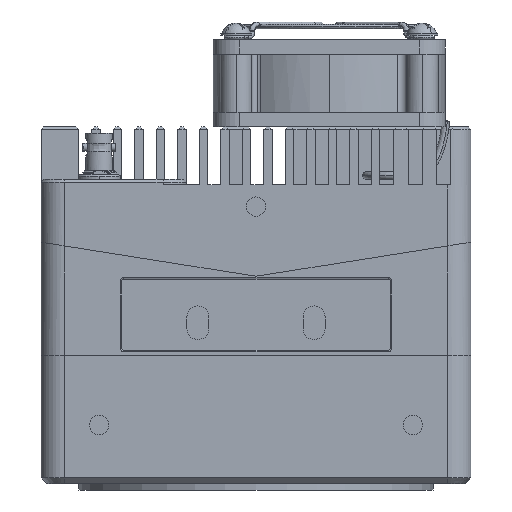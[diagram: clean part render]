
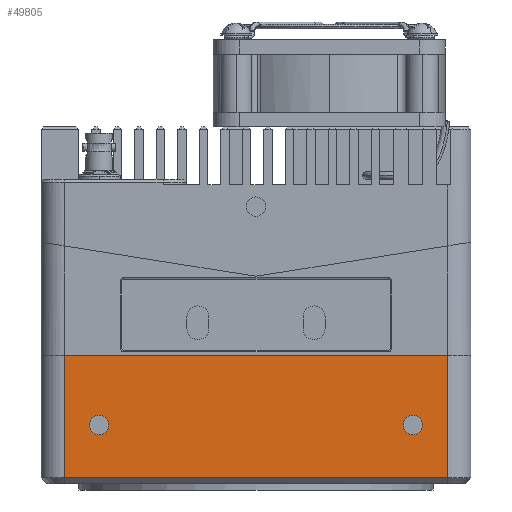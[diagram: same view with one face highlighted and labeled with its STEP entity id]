
A CAD part, front view. The second image highlights one B-rep face of the part: STEP entity #49805.
In plain terms, the highlighted planar face has unit normal (0, -1, 0).
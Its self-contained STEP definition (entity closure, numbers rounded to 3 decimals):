
#4096 = EDGE_CURVE ( 'NONE', #72750, #112772, #171475, .T. ) ;
#4606 = AXIS2_PLACEMENT_3D ( 'NONE', #84238, #15673, #166080 ) ;
#5739 = EDGE_LOOP ( 'NONE', ( #173549, #98056, #57568, #165702 ) ) ;
#9790 = FACE_OUTER_BOUND ( 'NONE', #5739, .T. ) ;
#10047 = VERTEX_POINT ( 'NONE', #113246 ) ;
#10794 = CARTESIAN_POINT ( 'NONE',  ( 33., -37.839, 52.9 ) ) ;
#11130 = AXIS2_PLACEMENT_3D ( 'NONE', #152735, #41172, #152145 ) ;
#15673 = DIRECTION ( 'NONE',  ( 0., -1., 0. ) ) ;
#16341 = FACE_BOUND ( 'NONE', #79863, .T. ) ;
#16965 = DIRECTION ( 'NONE',  ( 0., -1., 0. ) ) ;
#19510 = VERTEX_POINT ( 'NONE', #103139 ) ;
#24883 = FACE_BOUND ( 'NONE', #114020, .T. ) ;
#28705 = CARTESIAN_POINT ( 'NONE',  ( 33., -37.839, 74. ) ) ;
#29214 = AXIS2_PLACEMENT_3D ( 'NONE', #69035, #42842, #164646 ) ;
#29529 = CARTESIAN_POINT ( 'NONE',  ( 37., -37.839, 74. ) ) ;
#30463 = EDGE_CURVE ( 'NONE', #50542, #19510, #102864, .T. ) ;
#34060 = EDGE_CURVE ( 'NONE', #169825, #10047, #138761, .T. ) ;
#41104 = VECTOR ( 'NONE', #130028, 1000. ) ;
#41172 = DIRECTION ( 'NONE',  ( 0., -1., 0. ) ) ;
#42842 = DIRECTION ( 'NONE',  ( 0., -1., 0. ) ) ;
#43644 = AXIS2_PLACEMENT_3D ( 'NONE', #101022, #16965, #113028 ) ;
#47359 = VECTOR ( 'NONE', #108912, 1000. ) ;
#48629 = PLANE ( 'NONE',  #129325 ) ;
#49805 = ADVANCED_FACE ( 'NONE', ( #9790, #24883, #16341 ), #48629, .T. ) ;
#50542 = VERTEX_POINT ( 'NONE', #81791 ) ;
#51484 = CARTESIAN_POINT ( 'NONE',  ( -25.35, -37.839, 62. ) ) ;
#52841 = DIRECTION ( 'NONE',  ( 0., -1., 0. ) ) ;
#56241 = CARTESIAN_POINT ( 'NONE',  ( -33., -37.839, 50.5 ) ) ;
#56868 = VECTOR ( 'NONE', #71115, 1000. ) ;
#57568 = ORIENTED_EDGE ( 'NONE', *, *, #108858, .T. ) ;
#61211 = CARTESIAN_POINT ( 'NONE',  ( -33., -37.839, 52.9 ) ) ;
#61309 = CARTESIAN_POINT ( 'NONE',  ( 33., -37.839, 52.9 ) ) ;
#66527 = CARTESIAN_POINT ( 'NONE',  ( 37., -37.839, 50.5 ) ) ;
#68487 = EDGE_CURVE ( 'NONE', #19510, #50542, #176811, .T. ) ;
#69035 = CARTESIAN_POINT ( 'NONE',  ( 27., -37.839, 62. ) ) ;
#71115 = DIRECTION ( 'NONE',  ( 0., 0., -1. ) ) ;
#72750 = VERTEX_POINT ( 'NONE', #61211 ) ;
#78782 = CARTESIAN_POINT ( 'NONE',  ( -33., -37.839, 74. ) ) ;
#79863 = EDGE_LOOP ( 'NONE', ( #152932, #122611 ) ) ;
#81791 = CARTESIAN_POINT ( 'NONE',  ( 28.65, -37.839, 62. ) ) ;
#84238 = CARTESIAN_POINT ( 'NONE',  ( -27., -37.839, 62. ) ) ;
#88871 = LINE ( 'NONE', #56241, #56868 ) ;
#92900 = EDGE_CURVE ( 'NONE', #10047, #169825, #142170, .T. ) ;
#98056 = ORIENTED_EDGE ( 'NONE', *, *, #4096, .T. ) ;
#99111 = ORIENTED_EDGE ( 'NONE', *, *, #68487, .F. ) ;
#101022 = CARTESIAN_POINT ( 'NONE',  ( -27., -37.839, 62. ) ) ;
#102864 = CIRCLE ( 'NONE', #11130, 1.65 ) ;
#103139 = CARTESIAN_POINT ( 'NONE',  ( 25.35, -37.839, 62. ) ) ;
#103335 = EDGE_CURVE ( 'NONE', #173198, #72750, #88871, .T. ) ;
#107719 = ORIENTED_EDGE ( 'NONE', *, *, #30463, .F. ) ;
#108858 = EDGE_CURVE ( 'NONE', #112772, #134998, #172337, .T. ) ;
#108912 = DIRECTION ( 'NONE',  ( 1., 0., 0. ) ) ;
#112772 = VERTEX_POINT ( 'NONE', #10794 ) ;
#113028 = DIRECTION ( 'NONE',  ( 1., 0., 0. ) ) ;
#113246 = CARTESIAN_POINT ( 'NONE',  ( -28.65, -37.839, 62. ) ) ;
#114020 = EDGE_LOOP ( 'NONE', ( #107719, #99111 ) ) ;
#116829 = VECTOR ( 'NONE', #161362, 1000. ) ;
#122611 = ORIENTED_EDGE ( 'NONE', *, *, #92900, .F. ) ;
#129325 = AXIS2_PLACEMENT_3D ( 'NONE', #66527, #52841, #134670 ) ;
#130028 = DIRECTION ( 'NONE',  ( 1., 0., 0. ) ) ;
#134670 = DIRECTION ( 'NONE',  ( 1., 0., 0. ) ) ;
#134998 = VERTEX_POINT ( 'NONE', #28705 ) ;
#138761 = CIRCLE ( 'NONE', #4606, 1.65 ) ;
#142170 = CIRCLE ( 'NONE', #43644, 1.65 ) ;
#142545 = EDGE_CURVE ( 'NONE', #173198, #134998, #164959, .T. ) ;
#152145 = DIRECTION ( 'NONE',  ( 1., 0., 0. ) ) ;
#152735 = CARTESIAN_POINT ( 'NONE',  ( 27., -37.839, 62. ) ) ;
#152932 = ORIENTED_EDGE ( 'NONE', *, *, #34060, .F. ) ;
#161362 = DIRECTION ( 'NONE',  ( 0., 0., 1. ) ) ;
#164646 = DIRECTION ( 'NONE',  ( 1., 0., 0. ) ) ;
#164959 = LINE ( 'NONE', #29529, #47359 ) ;
#165702 = ORIENTED_EDGE ( 'NONE', *, *, #142545, .F. ) ;
#166080 = DIRECTION ( 'NONE',  ( 1., 0., 0. ) ) ;
#169825 = VERTEX_POINT ( 'NONE', #51484 ) ;
#171475 = LINE ( 'NONE', #61309, #41104 ) ;
#172337 = LINE ( 'NONE', #174517, #116829 ) ;
#173198 = VERTEX_POINT ( 'NONE', #78782 ) ;
#173549 = ORIENTED_EDGE ( 'NONE', *, *, #103335, .T. ) ;
#174517 = CARTESIAN_POINT ( 'NONE',  ( 33., -37.839, 50.5 ) ) ;
#176811 = CIRCLE ( 'NONE', #29214, 1.65 ) ;
